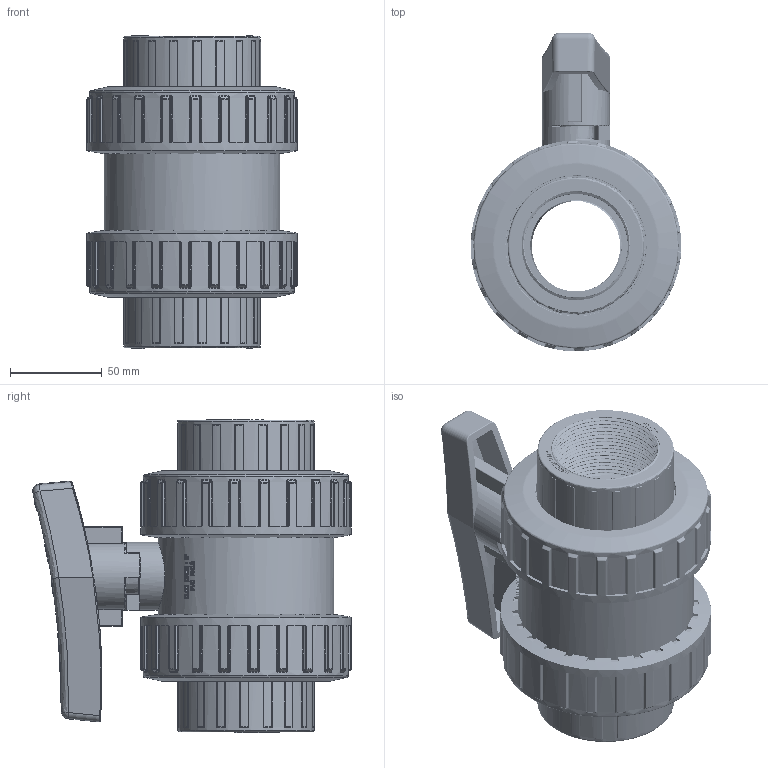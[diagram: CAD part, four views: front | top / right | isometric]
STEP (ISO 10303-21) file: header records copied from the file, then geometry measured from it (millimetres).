
FILE_DESCRIPTION(/* description */ (''),/* implementation_level */ '2;1');
FILE_NAME(/* name */ 'C:\ex desktop\VALVOLE SFERA\BV ACQUA\VALVOLE ACQUA FILETTATE\BVD41063\BVD41063_new_handle.stp',/* time_stamp */ '2019-04-02T15:08:53+02:00',/* author */ ('e.sacchi'),/* organization */ (''),/* preprocessor_version */ 'ST-DEVELOPER v16.13',/* originating_system */ 'Autodesk Inventor 2018',/* authorisation */ '');
FILE_SCHEMA (('AUTOMOTIVE_DESIGN { 1 0 10303 214 3 1 1 }'));
Length unit declared in the file: millimetre
Products named in the file (13): BVID40063; corpo_BVD_40_D_63; sfera_BVI_10_d_63; asta_BVD_40_d_63; LAV0119E; supporto_BVD_40_d_63; PTFE_BVI_10_d_63; LAV4275E; LAV3225E; LAV6237E; collare_BVD_40_d_63; ghiera_BVD_40_d_63; maniglia_BVI_10_d_63
Assembly tree (18 placements, depth 2):
  BVID40063
    corpo_BVD_40_D_63
    LAV3225E  x2
    PTFE_BVI_10_d_63  x2
    sfera_BVI_10_d_63
    asta_BVD_40_d_63
    LAV0119E  x2
    supporto_BVD_40_d_63
    LAV4275E
    LAV6237E  x2
    collare_BVD_40_d_63  x2
    ghiera_BVD_40_d_63  x2
    maniglia_BVI_10_d_63
Bounding box: 115 x 173.91 x 171.3 mm (x, y, z)
Volume: 894009.9 mm3; surface area: 343037 mm2
Topology: 20 solids, 20 shells, 3062 faces, 8027 edges, 5125 vertices
Faces by surface type: plane 1168, bspline 797, cylinder 632, torus 311, sphere 95, cone 59
Full cylindrical faces by diameter (mm): 15.692 x1, 17.2 x1, 17.7 x1, 20 x1, 36.7 x1, 37.25 x1, 50 x5, 55 x1, 56.5 x1, 59 x1, 59.5 x1, 59.61 x4, 62 x4, 70.5 x1, 71 x1, 74 x1, 74.6 x2, 75.4 x1, 81 x2, 82 x2, 83 x4, 85 x4, 96 x9, 112 x2, 115 x2
Entity records: 91588 total; most frequent: CARTESIAN_POINT 43863, ORIENTED_EDGE 10526, DIRECTION 8841, EDGE_CURVE 5263, VERTEX_POINT 3415, AXIS2_PLACEMENT_3D 3244, LINE 2353, VECTOR 2353
